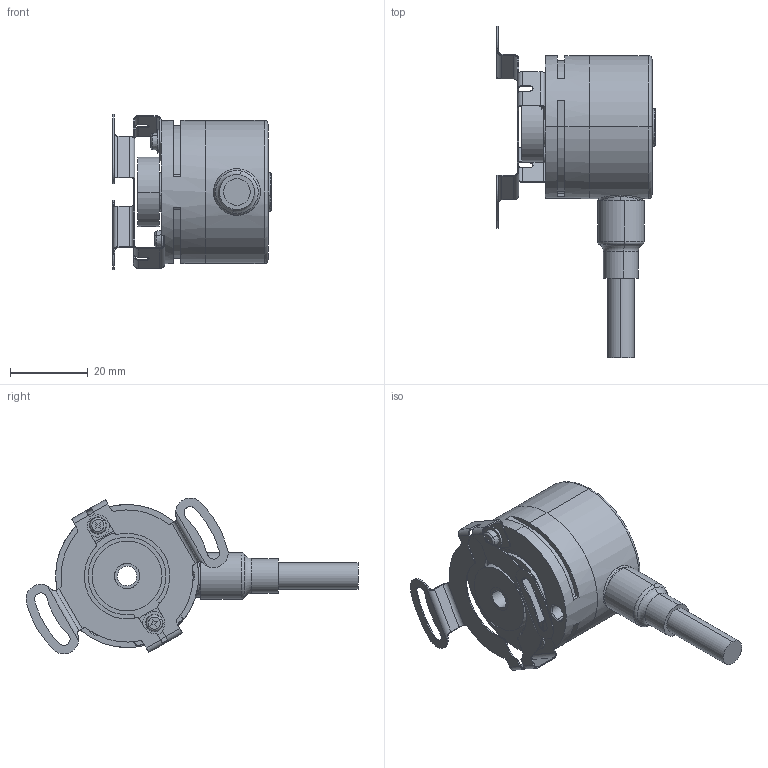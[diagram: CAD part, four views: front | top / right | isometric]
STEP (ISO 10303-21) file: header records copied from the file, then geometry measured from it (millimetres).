
FILE_DESCRIPTION (( 'STEP AP214' ), '1' );
FILE_NAME ('3720.52X1.XXXX.STEP', '2008-11-28T06:39:31', ( 'admin' ), ( 'Fritz Kübler GmbH' ), 'SwSTEP 2.0', 'SolidWorks 2008', '' );
FILE_SCHEMA (( 'AUTOMOTIVE_DESIGN' ));
Length unit declared in the file: millimetre
Products named in the file (1): 3720.52X1.XXXX
Bounding box: 40.7 x 85.4 x 40.1 mm (x, y, z)
Volume: 16617.1 mm3; surface area: 20874.6 mm2
Topology: 13 solids, 13 shells, 714 faces, 1756 edges, 1090 vertices
Faces by surface type: cylinder 324, plane 203, torus 94, cone 39, bspline 29, sphere 25
Entity records: 30727 total; most frequent: CARTESIAN_POINT 5683, DIRECTION 3797, ORIENTED_EDGE 3466, EDGE_CURVE 1733, AXIS2_PLACEMENT_3D 1552, VERTEX_POINT 1080, CIRCLE 866, EDGE_LOOP 781
